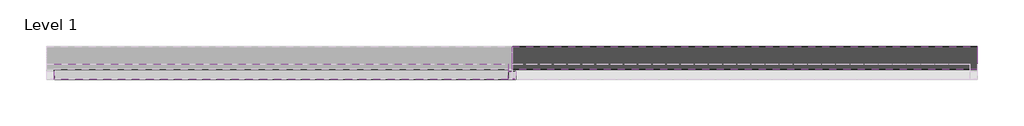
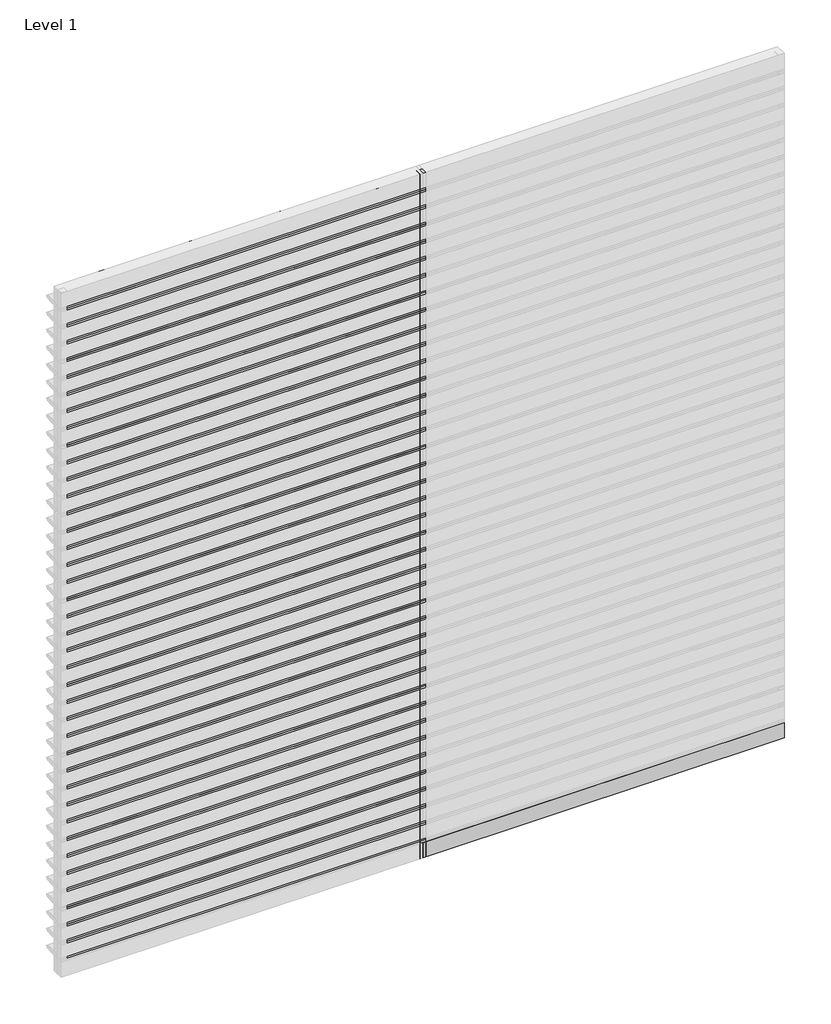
# One storey, part 2 of 3: 79 members, 40 plates.
"""IFC4 building model written with IfcOpenShell, lengths in millimetres."""

from ifc_helpers import new_model, si_unit, origin, place, context, project, spatial, transform, mapped, element, save
from components import rectangular_mullion_822d50ae, rectangular_mullion_eb4a5411, empty_system_panel_empty_095e2861, empty_system_panel_empty_149e9d60

model = new_model("IFC4")

# Units and contexts
model_context = context("Model", 3, world=origin())
ifc_project = project(units=[si_unit("LENGTHUNIT", "METRE", prefix="MILLI")], contexts=[model_context])

# Site, building, storey
site = spatial("IfcSite", under=ifc_project)
building = spatial("IfcBuilding", under=site)
storey = spatial("IfcBuildingStorey", under=building, Name="Level 1", Elevation=0.0)

# Members
placement = place(None, origin())
rectangular_mullion_shape = rectangular_mullion_822d50ae(model_context)
element("IfcMember", 1, ObjectType="Rectangular Mullion : RSen_21_CWM_blade - 150 ellips - 0°_gen_duco projects", at=placement, inside=storey, context=model_context, shape_type="MappedRepresentation", body=[
    mapped(rectangular_mullion_shape, transform((3000.0, 3000.0, 150.0), x_axis=(0.0, 0.0, 1.0), y_axis=(0.0, 1.0, 0.0), z_axis=(-1.0, 0.0, 0.0))),
])
element("IfcMember", 2, ObjectType="Rectangular Mullion : RSen_21_CWM_blade - 150 ellips - 0°_gen_duco projects", at=placement, inside=storey, context=model_context, shape_type="MappedRepresentation", body=[
    mapped(rectangular_mullion_shape, transform((3000.0, 3000.0, 300.0), x_axis=(0.0, 0.0, 1.0), y_axis=(0.0, 1.0, 0.0), z_axis=(-1.0, 0.0, 0.0))),
])
element("IfcMember", 3, ObjectType="Rectangular Mullion : RSen_21_CWM_blade - 150 ellips - 0°_gen_duco projects", at=placement, inside=storey, context=model_context, shape_type="MappedRepresentation", body=[
    mapped(rectangular_mullion_shape, transform((3000.0, 3000.0, 450.0), x_axis=(0.0, 0.0, 1.0), y_axis=(0.0, 1.0, 0.0), z_axis=(-1.0, 0.0, 0.0))),
])
element("IfcMember", 4, ObjectType="Rectangular Mullion : RSen_21_CWM_blade - 150 ellips - 0°_gen_duco projects", at=placement, inside=storey, context=model_context, shape_type="MappedRepresentation", body=[
    mapped(rectangular_mullion_shape, transform((3000.0, 3000.0, 600.0), x_axis=(0.0, 0.0, 1.0), y_axis=(0.0, 1.0, 0.0), z_axis=(-1.0, 0.0, 0.0))),
])
element("IfcMember", 5, ObjectType="Rectangular Mullion : RSen_21_CWM_blade - 150 ellips - 0°_gen_duco projects", at=placement, inside=storey, context=model_context, shape_type="MappedRepresentation", body=[
    mapped(rectangular_mullion_shape, transform((3000.0, 3000.0, 750.0), x_axis=(0.0, 0.0, 1.0), y_axis=(0.0, 1.0, 0.0), z_axis=(-1.0, 0.0, 0.0))),
])
element("IfcMember", 6, ObjectType="Rectangular Mullion : RSen_21_CWM_blade - 150 ellips - 0°_gen_duco projects", at=placement, inside=storey, context=model_context, shape_type="MappedRepresentation", body=[
    mapped(rectangular_mullion_shape, transform((3000.0, 3000.0, 900.0), x_axis=(0.0, 0.0, 1.0), y_axis=(0.0, 1.0, 0.0), z_axis=(-1.0, 0.0, 0.0))),
])
element("IfcMember", 7, ObjectType="Rectangular Mullion : RSen_21_CWM_blade - 150 ellips - 0°_gen_duco projects", at=placement, inside=storey, context=model_context, shape_type="MappedRepresentation", body=[
    mapped(rectangular_mullion_shape, transform((3000.0, 3000.0, 1050.0), x_axis=(0.0, 0.0, 1.0), y_axis=(0.0, 1.0, 0.0), z_axis=(-1.0, 0.0, 0.0))),
])
element("IfcMember", 8, ObjectType="Rectangular Mullion : RSen_21_CWM_blade - 150 ellips - 0°_gen_duco projects", at=placement, inside=storey, context=model_context, shape_type="MappedRepresentation", body=[
    mapped(rectangular_mullion_shape, transform((3000.0, 3000.0, 1200.0), x_axis=(0.0, 0.0, 1.0), y_axis=(0.0, 1.0, 0.0), z_axis=(-1.0, 0.0, 0.0))),
])
element("IfcMember", 9, ObjectType="Rectangular Mullion : RSen_21_CWM_blade - 150 ellips - 0°_gen_duco projects", at=placement, inside=storey, context=model_context, shape_type="MappedRepresentation", body=[
    mapped(rectangular_mullion_shape, transform((3000.0, 3000.0, 1350.0), x_axis=(0.0, 0.0, 1.0), y_axis=(0.0, 1.0, 0.0), z_axis=(-1.0, 0.0, 0.0))),
])
element("IfcMember", 10, ObjectType="Rectangular Mullion : RSen_21_CWM_blade - 150 ellips - 0°_gen_duco projects", at=placement, inside=storey, context=model_context, shape_type="MappedRepresentation", body=[
    mapped(rectangular_mullion_shape, transform((3000.0, 3000.0, 1500.0), x_axis=(0.0, 0.0, 1.0), y_axis=(0.0, 1.0, 0.0), z_axis=(-1.0, 0.0, 0.0))),
])
element("IfcMember", 11, ObjectType="Rectangular Mullion : RSen_21_CWM_blade - 150 ellips - 0°_gen_duco projects", at=placement, inside=storey, context=model_context, shape_type="MappedRepresentation", body=[
    mapped(rectangular_mullion_shape, transform((3000.0, 3000.0, 1650.0), x_axis=(0.0, 0.0, 1.0), y_axis=(0.0, 1.0, 0.0), z_axis=(-1.0, 0.0, 0.0))),
])
element("IfcMember", 12, ObjectType="Rectangular Mullion : RSen_21_CWM_blade - 150 ellips - 0°_gen_duco projects", at=placement, inside=storey, context=model_context, shape_type="MappedRepresentation", body=[
    mapped(rectangular_mullion_shape, transform((3000.0, 3000.0, 1800.0), x_axis=(0.0, 0.0, 1.0), y_axis=(0.0, 1.0, 0.0), z_axis=(-1.0, 0.0, 0.0))),
])
element("IfcMember", 13, ObjectType="Rectangular Mullion : RSen_21_CWM_blade - 150 ellips - 0°_gen_duco projects", at=placement, inside=storey, context=model_context, shape_type="MappedRepresentation", body=[
    mapped(rectangular_mullion_shape, transform((3000.0, 3000.0, 1950.0), x_axis=(0.0, 0.0, 1.0), y_axis=(0.0, 1.0, 0.0), z_axis=(-1.0, 0.0, 0.0))),
])
element("IfcMember", 14, ObjectType="Rectangular Mullion : RSen_21_CWM_blade - 150 ellips - 0°_gen_duco projects", at=placement, inside=storey, context=model_context, shape_type="MappedRepresentation", body=[
    mapped(rectangular_mullion_shape, transform((3000.0, 3000.0, 2100.0), x_axis=(0.0, 0.0, 1.0), y_axis=(0.0, 1.0, 0.0), z_axis=(-1.0, 0.0, 0.0))),
])
element("IfcMember", 15, ObjectType="Rectangular Mullion : RSen_21_CWM_blade - 150 ellips - 0°_gen_duco projects", at=placement, inside=storey, context=model_context, shape_type="MappedRepresentation", body=[
    mapped(rectangular_mullion_shape, transform((3000.0, 3000.0, 2250.0), x_axis=(0.0, 0.0, 1.0), y_axis=(0.0, 1.0, 0.0), z_axis=(-1.0, 0.0, 0.0))),
])
element("IfcMember", 16, ObjectType="Rectangular Mullion : RSen_21_CWM_blade - 150 ellips - 0°_gen_duco projects", at=placement, inside=storey, context=model_context, shape_type="MappedRepresentation", body=[
    mapped(rectangular_mullion_shape, transform((3000.0, 3000.0, 2400.0), x_axis=(0.0, 0.0, 1.0), y_axis=(0.0, 1.0, 0.0), z_axis=(-1.0, 0.0, 0.0))),
])
element("IfcMember", 17, ObjectType="Rectangular Mullion : RSen_21_CWM_blade - 150 ellips - 0°_gen_duco projects", at=placement, inside=storey, context=model_context, shape_type="MappedRepresentation", body=[
    mapped(rectangular_mullion_shape, transform((3000.0, 3000.0, 2550.0), x_axis=(0.0, 0.0, 1.0), y_axis=(0.0, 1.0, 0.0), z_axis=(-1.0, 0.0, 0.0))),
])
element("IfcMember", 18, ObjectType="Rectangular Mullion : RSen_21_CWM_blade - 150 ellips - 0°_gen_duco projects", at=placement, inside=storey, context=model_context, shape_type="MappedRepresentation", body=[
    mapped(rectangular_mullion_shape, transform((3000.0, 3000.0, 2700.0), x_axis=(0.0, 0.0, 1.0), y_axis=(0.0, 1.0, 0.0), z_axis=(-1.0, 0.0, 0.0))),
])
element("IfcMember", 19, ObjectType="Rectangular Mullion : RSen_21_CWM_blade - 150 ellips - 0°_gen_duco projects", at=placement, inside=storey, context=model_context, shape_type="MappedRepresentation", body=[
    mapped(rectangular_mullion_shape, transform((3000.0, 3000.0, 2850.0), x_axis=(0.0, 0.0, 1.0), y_axis=(0.0, 1.0, 0.0), z_axis=(-1.0, 0.0, 0.0))),
])
element("IfcMember", 20, ObjectType="Rectangular Mullion : RSen_21_CWM_blade - 150 ellips - 0°_gen_duco projects", at=placement, inside=storey, context=model_context, shape_type="MappedRepresentation", body=[
    mapped(rectangular_mullion_shape, transform((3000.0, 3000.0, 3000.0), x_axis=(0.0, 0.0, 1.0), y_axis=(0.0, 1.0, 0.0), z_axis=(-1.0, 0.0, 0.0))),
])
element("IfcMember", 21, ObjectType="Rectangular Mullion : RSen_21_CWM_blade - 150 ellips - 0°_gen_duco projects", at=placement, inside=storey, context=model_context, shape_type="MappedRepresentation", body=[
    mapped(rectangular_mullion_shape, transform((3000.0, 3000.0, 3150.0), x_axis=(0.0, 0.0, 1.0), y_axis=(0.0, 1.0, 0.0), z_axis=(-1.0, 0.0, 0.0))),
])
element("IfcMember", 22, ObjectType="Rectangular Mullion : RSen_21_CWM_blade - 150 ellips - 0°_gen_duco projects", at=placement, inside=storey, context=model_context, shape_type="MappedRepresentation", body=[
    mapped(rectangular_mullion_shape, transform((3000.0, 3000.0, 3300.0), x_axis=(0.0, 0.0, 1.0), y_axis=(0.0, 1.0, 0.0), z_axis=(-1.0, 0.0, 0.0))),
])
element("IfcMember", 23, ObjectType="Rectangular Mullion : RSen_21_CWM_blade - 150 ellips - 0°_gen_duco projects", at=placement, inside=storey, context=model_context, shape_type="MappedRepresentation", body=[
    mapped(rectangular_mullion_shape, transform((3000.0, 3000.0, 3450.0), x_axis=(0.0, 0.0, 1.0), y_axis=(0.0, 1.0, 0.0), z_axis=(-1.0, 0.0, 0.0))),
])
element("IfcMember", 24, ObjectType="Rectangular Mullion : RSen_21_CWM_blade - 150 ellips - 0°_gen_duco projects", at=placement, inside=storey, context=model_context, shape_type="MappedRepresentation", body=[
    mapped(rectangular_mullion_shape, transform((3000.0, 3000.0, 3600.0), x_axis=(0.0, 0.0, 1.0), y_axis=(0.0, 1.0, 0.0), z_axis=(-1.0, 0.0, 0.0))),
])
element("IfcMember", 25, ObjectType="Rectangular Mullion : RSen_21_CWM_blade - 150 ellips - 0°_gen_duco projects", at=placement, inside=storey, context=model_context, shape_type="MappedRepresentation", body=[
    mapped(rectangular_mullion_shape, transform((3000.0, 3000.0, 3750.0), x_axis=(0.0, 0.0, 1.0), y_axis=(0.0, 1.0, 0.0), z_axis=(-1.0, 0.0, 0.0))),
])
element("IfcMember", 26, ObjectType="Rectangular Mullion : RSen_21_CWM_blade - 150 ellips - 0°_gen_duco projects", at=placement, inside=storey, context=model_context, shape_type="MappedRepresentation", body=[
    mapped(rectangular_mullion_shape, transform((3000.0, 3000.0, 3900.0), x_axis=(0.0, 0.0, 1.0), y_axis=(0.0, 1.0, 0.0), z_axis=(-1.0, 0.0, 0.0))),
])
element("IfcMember", 27, ObjectType="Rectangular Mullion : RSen_21_CWM_blade - 150 ellips - 0°_gen_duco projects", at=placement, inside=storey, context=model_context, shape_type="MappedRepresentation", body=[
    mapped(rectangular_mullion_shape, transform((3000.0, 3000.0, 4050.0), x_axis=(0.0, 0.0, 1.0), y_axis=(0.0, 1.0, 0.0), z_axis=(-1.0, 0.0, 0.0))),
])
element("IfcMember", 28, ObjectType="Rectangular Mullion : RSen_21_CWM_blade - 150 ellips - 0°_gen_duco projects", at=placement, inside=storey, context=model_context, shape_type="MappedRepresentation", body=[
    mapped(rectangular_mullion_shape, transform((3000.0, 3000.0, 4200.0), x_axis=(0.0, 0.0, 1.0), y_axis=(0.0, 1.0, 0.0), z_axis=(-1.0, 0.0, 0.0))),
])
element("IfcMember", 29, ObjectType="Rectangular Mullion : RSen_21_CWM_blade - 150 ellips - 0°_gen_duco projects", at=placement, inside=storey, context=model_context, shape_type="MappedRepresentation", body=[
    mapped(rectangular_mullion_shape, transform((3000.0, 3000.0, 4350.0), x_axis=(0.0, 0.0, 1.0), y_axis=(0.0, 1.0, 0.0), z_axis=(-1.0, 0.0, 0.0))),
])
element("IfcMember", 30, ObjectType="Rectangular Mullion : RSen_21_CWM_blade - 150 ellips - 0°_gen_duco projects", at=placement, inside=storey, context=model_context, shape_type="MappedRepresentation", body=[
    mapped(rectangular_mullion_shape, transform((3000.0, 3000.0, 4500.0), x_axis=(0.0, 0.0, 1.0), y_axis=(0.0, 1.0, 0.0), z_axis=(-1.0, 0.0, 0.0))),
])
element("IfcMember", 31, ObjectType="Rectangular Mullion : RSen_21_CWM_blade - 150 ellips - 0°_gen_duco projects", at=placement, inside=storey, context=model_context, shape_type="MappedRepresentation", body=[
    mapped(rectangular_mullion_shape, transform((3000.0, 3000.0, 4650.0), x_axis=(0.0, 0.0, 1.0), y_axis=(0.0, 1.0, 0.0), z_axis=(-1.0, 0.0, 0.0))),
])
element("IfcMember", 32, ObjectType="Rectangular Mullion : RSen_21_CWM_blade - 150 ellips - 0°_gen_duco projects", at=placement, inside=storey, context=model_context, shape_type="MappedRepresentation", body=[
    mapped(rectangular_mullion_shape, transform((3000.0, 3000.0, 4800.0), x_axis=(0.0, 0.0, 1.0), y_axis=(0.0, 1.0, 0.0), z_axis=(-1.0, 0.0, 0.0))),
])
element("IfcMember", 33, ObjectType="Rectangular Mullion : RSen_21_CWM_blade - 150 ellips - 0°_gen_duco projects", at=placement, inside=storey, context=model_context, shape_type="MappedRepresentation", body=[
    mapped(rectangular_mullion_shape, transform((3000.0, 3000.0, 4950.0), x_axis=(0.0, 0.0, 1.0), y_axis=(0.0, 1.0, 0.0), z_axis=(-1.0, 0.0, 0.0))),
])
element("IfcMember", 34, ObjectType="Rectangular Mullion : RSen_21_CWM_blade - 150 ellips - 0°_gen_duco projects", at=placement, inside=storey, context=model_context, shape_type="MappedRepresentation", body=[
    mapped(rectangular_mullion_shape, transform((3000.0, 3000.0, 5100.0), x_axis=(0.0, 0.0, 1.0), y_axis=(0.0, 1.0, 0.0), z_axis=(-1.0, 0.0, 0.0))),
])
element("IfcMember", 35, ObjectType="Rectangular Mullion : RSen_21_CWM_blade - 150 ellips - 0°_gen_duco projects", at=placement, inside=storey, context=model_context, shape_type="MappedRepresentation", body=[
    mapped(rectangular_mullion_shape, transform((3000.0, 3000.0, 5250.0), x_axis=(0.0, 0.0, 1.0), y_axis=(0.0, 1.0, 0.0), z_axis=(-1.0, 0.0, 0.0))),
])
element("IfcMember", 36, ObjectType="Rectangular Mullion : RSen_21_CWM_blade - 150 ellips - 0°_gen_duco projects", at=placement, inside=storey, context=model_context, shape_type="MappedRepresentation", body=[
    mapped(rectangular_mullion_shape, transform((3000.0, 3000.0, 5400.0), x_axis=(0.0, 0.0, 1.0), y_axis=(0.0, 1.0, 0.0), z_axis=(-1.0, 0.0, 0.0))),
])
element("IfcMember", 37, ObjectType="Rectangular Mullion : RSen_21_CWM_blade - 150 ellips - 0°_gen_duco projects", at=placement, inside=storey, context=model_context, shape_type="MappedRepresentation", body=[
    mapped(rectangular_mullion_shape, transform((3000.0, 3000.0, 5550.0), x_axis=(0.0, 0.0, 1.0), y_axis=(0.0, 1.0, 0.0), z_axis=(-1.0, 0.0, 0.0))),
])
element("IfcMember", 38, ObjectType="Rectangular Mullion : RSen_21_CWM_blade - 150 ellips - 0°_gen_duco projects", at=placement, inside=storey, context=model_context, shape_type="MappedRepresentation", body=[
    mapped(rectangular_mullion_shape, transform((3000.0, 3000.0, 5700.0), x_axis=(0.0, 0.0, 1.0), y_axis=(0.0, 1.0, 0.0), z_axis=(-1.0, 0.0, 0.0))),
])
element("IfcMember", 39, ObjectType="Rectangular Mullion : RSen_21_CWM_blade - 150 ellips - 0°_gen_duco projects", at=placement, inside=storey, context=model_context, shape_type="MappedRepresentation", body=[
    mapped(rectangular_mullion_shape, transform((3000.0, 3000.0, 5850.0), x_axis=(0.0, 0.0, 1.0), y_axis=(0.0, 1.0, 0.0), z_axis=(-1.0, 0.0, 0.0))),
])
rectangular_mullion_2_shape = rectangular_mullion_eb4a5411(model_context)
element("IfcMember", 40, ObjectType="Rectangular Mullion : RSen_21_CWM_support profile 50x50_gen_duco projects", at=placement, inside=storey, context=model_context, shape_type="MappedRepresentation", body=[
    mapped(rectangular_mullion_2_shape, transform((3000.0, 3000.0, 0.0), x_axis=(-1.0, 0.0, 0.0), y_axis=(0.0, 1.0, 0.0), z_axis=(0.0, 0.0, -1.0))),
])
element("IfcMember", 41, ObjectType="Rectangular Mullion : RSen_21_CWM_support profile 50x50_gen_duco projects", at=placement, inside=storey, context=model_context, shape_type="MappedRepresentation", body=[
    mapped(rectangular_mullion_2_shape, transform((3000.0, 3000.0, 150.0), x_axis=(-1.0, 0.0, 0.0), y_axis=(0.0, 1.0, 0.0), z_axis=(0.0, 0.0, -1.0))),
])
element("IfcMember", 42, ObjectType="Rectangular Mullion : RSen_21_CWM_support profile 50x50_gen_duco projects", at=placement, inside=storey, context=model_context, shape_type="MappedRepresentation", body=[
    mapped(rectangular_mullion_2_shape, transform((3000.0, 3000.0, 300.0), x_axis=(-1.0, 0.0, 0.0), y_axis=(0.0, 1.0, 0.0), z_axis=(0.0, 0.0, -1.0))),
])
element("IfcMember", 43, ObjectType="Rectangular Mullion : RSen_21_CWM_support profile 50x50_gen_duco projects", at=placement, inside=storey, context=model_context, shape_type="MappedRepresentation", body=[
    mapped(rectangular_mullion_2_shape, transform((3000.0, 3000.0, 450.0), x_axis=(-1.0, 0.0, 0.0), y_axis=(0.0, 1.0, 0.0), z_axis=(0.0, 0.0, -1.0))),
])
element("IfcMember", 44, ObjectType="Rectangular Mullion : RSen_21_CWM_support profile 50x50_gen_duco projects", at=placement, inside=storey, context=model_context, shape_type="MappedRepresentation", body=[
    mapped(rectangular_mullion_2_shape, transform((3000.0, 3000.0, 600.0), x_axis=(-1.0, 0.0, 0.0), y_axis=(0.0, 1.0, 0.0), z_axis=(0.0, 0.0, -1.0))),
])
element("IfcMember", 45, ObjectType="Rectangular Mullion : RSen_21_CWM_support profile 50x50_gen_duco projects", at=placement, inside=storey, context=model_context, shape_type="MappedRepresentation", body=[
    mapped(rectangular_mullion_2_shape, transform((3000.0, 3000.0, 750.0), x_axis=(-1.0, 0.0, 0.0), y_axis=(0.0, 1.0, 0.0), z_axis=(0.0, 0.0, -1.0))),
])
element("IfcMember", 46, ObjectType="Rectangular Mullion : RSen_21_CWM_support profile 50x50_gen_duco projects", at=placement, inside=storey, context=model_context, shape_type="MappedRepresentation", body=[
    mapped(rectangular_mullion_2_shape, transform((3000.0, 3000.0, 900.0), x_axis=(-1.0, 0.0, 0.0), y_axis=(0.0, 1.0, 0.0), z_axis=(0.0, 0.0, -1.0))),
])
element("IfcMember", 47, ObjectType="Rectangular Mullion : RSen_21_CWM_support profile 50x50_gen_duco projects", at=placement, inside=storey, context=model_context, shape_type="MappedRepresentation", body=[
    mapped(rectangular_mullion_2_shape, transform((3000.0, 3000.0, 1050.0), x_axis=(-1.0, 0.0, 0.0), y_axis=(0.0, 1.0, 0.0), z_axis=(0.0, 0.0, -1.0))),
])
element("IfcMember", 48, ObjectType="Rectangular Mullion : RSen_21_CWM_support profile 50x50_gen_duco projects", at=placement, inside=storey, context=model_context, shape_type="MappedRepresentation", body=[
    mapped(rectangular_mullion_2_shape, transform((3000.0, 3000.0, 1200.0), x_axis=(-1.0, 0.0, 0.0), y_axis=(0.0, 1.0, 0.0), z_axis=(0.0, 0.0, -1.0))),
])
element("IfcMember", 49, ObjectType="Rectangular Mullion : RSen_21_CWM_support profile 50x50_gen_duco projects", at=placement, inside=storey, context=model_context, shape_type="MappedRepresentation", body=[
    mapped(rectangular_mullion_2_shape, transform((3000.0, 3000.0, 1350.0), x_axis=(-1.0, 0.0, 0.0), y_axis=(0.0, 1.0, 0.0), z_axis=(0.0, 0.0, -1.0))),
])
element("IfcMember", 50, ObjectType="Rectangular Mullion : RSen_21_CWM_support profile 50x50_gen_duco projects", at=placement, inside=storey, context=model_context, shape_type="MappedRepresentation", body=[
    mapped(rectangular_mullion_2_shape, transform((3000.0, 3000.0, 1500.0), x_axis=(-1.0, 0.0, 0.0), y_axis=(0.0, 1.0, 0.0), z_axis=(0.0, 0.0, -1.0))),
])
element("IfcMember", 51, ObjectType="Rectangular Mullion : RSen_21_CWM_support profile 50x50_gen_duco projects", at=placement, inside=storey, context=model_context, shape_type="MappedRepresentation", body=[
    mapped(rectangular_mullion_2_shape, transform((3000.0, 3000.0, 1650.0), x_axis=(-1.0, 0.0, 0.0), y_axis=(0.0, 1.0, 0.0), z_axis=(0.0, 0.0, -1.0))),
])
element("IfcMember", 52, ObjectType="Rectangular Mullion : RSen_21_CWM_support profile 50x50_gen_duco projects", at=placement, inside=storey, context=model_context, shape_type="MappedRepresentation", body=[
    mapped(rectangular_mullion_2_shape, transform((3000.0, 3000.0, 1800.0), x_axis=(-1.0, 0.0, 0.0), y_axis=(0.0, 1.0, 0.0), z_axis=(0.0, 0.0, -1.0))),
])
element("IfcMember", 53, ObjectType="Rectangular Mullion : RSen_21_CWM_support profile 50x50_gen_duco projects", at=placement, inside=storey, context=model_context, shape_type="MappedRepresentation", body=[
    mapped(rectangular_mullion_2_shape, transform((3000.0, 3000.0, 1950.0), x_axis=(-1.0, 0.0, 0.0), y_axis=(0.0, 1.0, 0.0), z_axis=(0.0, 0.0, -1.0))),
])
element("IfcMember", 54, ObjectType="Rectangular Mullion : RSen_21_CWM_support profile 50x50_gen_duco projects", at=placement, inside=storey, context=model_context, shape_type="MappedRepresentation", body=[
    mapped(rectangular_mullion_2_shape, transform((3000.0, 3000.0, 2100.0), x_axis=(-1.0, 0.0, 0.0), y_axis=(0.0, 1.0, 0.0), z_axis=(0.0, 0.0, -1.0))),
])
element("IfcMember", 55, ObjectType="Rectangular Mullion : RSen_21_CWM_support profile 50x50_gen_duco projects", at=placement, inside=storey, context=model_context, shape_type="MappedRepresentation", body=[
    mapped(rectangular_mullion_2_shape, transform((3000.0, 3000.0, 2250.0), x_axis=(-1.0, 0.0, 0.0), y_axis=(0.0, 1.0, 0.0), z_axis=(0.0, 0.0, -1.0))),
])
element("IfcMember", 56, ObjectType="Rectangular Mullion : RSen_21_CWM_support profile 50x50_gen_duco projects", at=placement, inside=storey, context=model_context, shape_type="MappedRepresentation", body=[
    mapped(rectangular_mullion_2_shape, transform((3000.0, 3000.0, 2400.0), x_axis=(-1.0, 0.0, 0.0), y_axis=(0.0, 1.0, 0.0), z_axis=(0.0, 0.0, -1.0))),
])
element("IfcMember", 57, ObjectType="Rectangular Mullion : RSen_21_CWM_support profile 50x50_gen_duco projects", at=placement, inside=storey, context=model_context, shape_type="MappedRepresentation", body=[
    mapped(rectangular_mullion_2_shape, transform((3000.0, 3000.0, 2550.0), x_axis=(-1.0, 0.0, 0.0), y_axis=(0.0, 1.0, 0.0), z_axis=(0.0, 0.0, -1.0))),
])
element("IfcMember", 58, ObjectType="Rectangular Mullion : RSen_21_CWM_support profile 50x50_gen_duco projects", at=placement, inside=storey, context=model_context, shape_type="MappedRepresentation", body=[
    mapped(rectangular_mullion_2_shape, transform((3000.0, 3000.0, 2700.0), x_axis=(-1.0, 0.0, 0.0), y_axis=(0.0, 1.0, 0.0), z_axis=(0.0, 0.0, -1.0))),
])
element("IfcMember", 59, ObjectType="Rectangular Mullion : RSen_21_CWM_support profile 50x50_gen_duco projects", at=placement, inside=storey, context=model_context, shape_type="MappedRepresentation", body=[
    mapped(rectangular_mullion_2_shape, transform((3000.0, 3000.0, 2850.0), x_axis=(-1.0, 0.0, 0.0), y_axis=(0.0, 1.0, 0.0), z_axis=(0.0, 0.0, -1.0))),
])
element("IfcMember", 60, ObjectType="Rectangular Mullion : RSen_21_CWM_support profile 50x50_gen_duco projects", at=placement, inside=storey, context=model_context, shape_type="MappedRepresentation", body=[
    mapped(rectangular_mullion_2_shape, transform((3000.0, 3000.0, 3000.0), x_axis=(-1.0, 0.0, 0.0), y_axis=(0.0, 1.0, 0.0), z_axis=(0.0, 0.0, -1.0))),
])
element("IfcMember", 61, ObjectType="Rectangular Mullion : RSen_21_CWM_support profile 50x50_gen_duco projects", at=placement, inside=storey, context=model_context, shape_type="MappedRepresentation", body=[
    mapped(rectangular_mullion_2_shape, transform((3000.0, 3000.0, 3150.0), x_axis=(-1.0, 0.0, 0.0), y_axis=(0.0, 1.0, 0.0), z_axis=(0.0, 0.0, -1.0))),
])
element("IfcMember", 62, ObjectType="Rectangular Mullion : RSen_21_CWM_support profile 50x50_gen_duco projects", at=placement, inside=storey, context=model_context, shape_type="MappedRepresentation", body=[
    mapped(rectangular_mullion_2_shape, transform((3000.0, 3000.0, 3300.0), x_axis=(-1.0, 0.0, 0.0), y_axis=(0.0, 1.0, 0.0), z_axis=(0.0, 0.0, -1.0))),
])
element("IfcMember", 63, ObjectType="Rectangular Mullion : RSen_21_CWM_support profile 50x50_gen_duco projects", at=placement, inside=storey, context=model_context, shape_type="MappedRepresentation", body=[
    mapped(rectangular_mullion_2_shape, transform((3000.0, 3000.0, 3450.0), x_axis=(-1.0, 0.0, 0.0), y_axis=(0.0, 1.0, 0.0), z_axis=(0.0, 0.0, -1.0))),
])
element("IfcMember", 64, ObjectType="Rectangular Mullion : RSen_21_CWM_support profile 50x50_gen_duco projects", at=placement, inside=storey, context=model_context, shape_type="MappedRepresentation", body=[
    mapped(rectangular_mullion_2_shape, transform((3000.0, 3000.0, 3600.0), x_axis=(-1.0, 0.0, 0.0), y_axis=(0.0, 1.0, 0.0), z_axis=(0.0, 0.0, -1.0))),
])
element("IfcMember", 65, ObjectType="Rectangular Mullion : RSen_21_CWM_support profile 50x50_gen_duco projects", at=placement, inside=storey, context=model_context, shape_type="MappedRepresentation", body=[
    mapped(rectangular_mullion_2_shape, transform((3000.0, 3000.0, 3750.0), x_axis=(-1.0, 0.0, 0.0), y_axis=(0.0, 1.0, 0.0), z_axis=(0.0, 0.0, -1.0))),
])
element("IfcMember", 66, ObjectType="Rectangular Mullion : RSen_21_CWM_support profile 50x50_gen_duco projects", at=placement, inside=storey, context=model_context, shape_type="MappedRepresentation", body=[
    mapped(rectangular_mullion_2_shape, transform((3000.0, 3000.0, 3900.0), x_axis=(-1.0, 0.0, 0.0), y_axis=(0.0, 1.0, 0.0), z_axis=(0.0, 0.0, -1.0))),
])
element("IfcMember", 67, ObjectType="Rectangular Mullion : RSen_21_CWM_support profile 50x50_gen_duco projects", at=placement, inside=storey, context=model_context, shape_type="MappedRepresentation", body=[
    mapped(rectangular_mullion_2_shape, transform((3000.0, 3000.0, 4050.0), x_axis=(-1.0, 0.0, 0.0), y_axis=(0.0, 1.0, 0.0), z_axis=(0.0, 0.0, -1.0))),
])
element("IfcMember", 68, ObjectType="Rectangular Mullion : RSen_21_CWM_support profile 50x50_gen_duco projects", at=placement, inside=storey, context=model_context, shape_type="MappedRepresentation", body=[
    mapped(rectangular_mullion_2_shape, transform((3000.0, 3000.0, 4200.0), x_axis=(-1.0, 0.0, 0.0), y_axis=(0.0, 1.0, 0.0), z_axis=(0.0, 0.0, -1.0))),
])
element("IfcMember", 69, ObjectType="Rectangular Mullion : RSen_21_CWM_support profile 50x50_gen_duco projects", at=placement, inside=storey, context=model_context, shape_type="MappedRepresentation", body=[
    mapped(rectangular_mullion_2_shape, transform((3000.0, 3000.0, 4350.0), x_axis=(-1.0, 0.0, 0.0), y_axis=(0.0, 1.0, 0.0), z_axis=(0.0, 0.0, -1.0))),
])
element("IfcMember", 70, ObjectType="Rectangular Mullion : RSen_21_CWM_support profile 50x50_gen_duco projects", at=placement, inside=storey, context=model_context, shape_type="MappedRepresentation", body=[
    mapped(rectangular_mullion_2_shape, transform((3000.0, 3000.0, 4500.0), x_axis=(-1.0, 0.0, 0.0), y_axis=(0.0, 1.0, 0.0), z_axis=(0.0, 0.0, -1.0))),
])
element("IfcMember", 71, ObjectType="Rectangular Mullion : RSen_21_CWM_support profile 50x50_gen_duco projects", at=placement, inside=storey, context=model_context, shape_type="MappedRepresentation", body=[
    mapped(rectangular_mullion_2_shape, transform((3000.0, 3000.0, 4650.0), x_axis=(-1.0, 0.0, 0.0), y_axis=(0.0, 1.0, 0.0), z_axis=(0.0, 0.0, -1.0))),
])
element("IfcMember", 72, ObjectType="Rectangular Mullion : RSen_21_CWM_support profile 50x50_gen_duco projects", at=placement, inside=storey, context=model_context, shape_type="MappedRepresentation", body=[
    mapped(rectangular_mullion_2_shape, transform((3000.0, 3000.0, 4800.0), x_axis=(-1.0, 0.0, 0.0), y_axis=(0.0, 1.0, 0.0), z_axis=(0.0, 0.0, -1.0))),
])
element("IfcMember", 73, ObjectType="Rectangular Mullion : RSen_21_CWM_support profile 50x50_gen_duco projects", at=placement, inside=storey, context=model_context, shape_type="MappedRepresentation", body=[
    mapped(rectangular_mullion_2_shape, transform((3000.0, 3000.0, 4950.0), x_axis=(-1.0, 0.0, 0.0), y_axis=(0.0, 1.0, 0.0), z_axis=(0.0, 0.0, -1.0))),
])
element("IfcMember", 74, ObjectType="Rectangular Mullion : RSen_21_CWM_support profile 50x50_gen_duco projects", at=placement, inside=storey, context=model_context, shape_type="MappedRepresentation", body=[
    mapped(rectangular_mullion_2_shape, transform((3000.0, 3000.0, 5100.0), x_axis=(-1.0, 0.0, 0.0), y_axis=(0.0, 1.0, 0.0), z_axis=(0.0, 0.0, -1.0))),
])
element("IfcMember", 75, ObjectType="Rectangular Mullion : RSen_21_CWM_support profile 50x50_gen_duco projects", at=placement, inside=storey, context=model_context, shape_type="MappedRepresentation", body=[
    mapped(rectangular_mullion_2_shape, transform((3000.0, 3000.0, 5250.0), x_axis=(-1.0, 0.0, 0.0), y_axis=(0.0, 1.0, 0.0), z_axis=(0.0, 0.0, -1.0))),
])
element("IfcMember", 76, ObjectType="Rectangular Mullion : RSen_21_CWM_support profile 50x50_gen_duco projects", at=placement, inside=storey, context=model_context, shape_type="MappedRepresentation", body=[
    mapped(rectangular_mullion_2_shape, transform((3000.0, 3000.0, 5400.0), x_axis=(-1.0, 0.0, 0.0), y_axis=(0.0, 1.0, 0.0), z_axis=(0.0, 0.0, -1.0))),
])
element("IfcMember", 77, ObjectType="Rectangular Mullion : RSen_21_CWM_support profile 50x50_gen_duco projects", at=placement, inside=storey, context=model_context, shape_type="MappedRepresentation", body=[
    mapped(rectangular_mullion_2_shape, transform((3000.0, 3000.0, 5550.0), x_axis=(-1.0, 0.0, 0.0), y_axis=(0.0, 1.0, 0.0), z_axis=(0.0, 0.0, -1.0))),
])
element("IfcMember", 78, ObjectType="Rectangular Mullion : RSen_21_CWM_support profile 50x50_gen_duco projects", at=placement, inside=storey, context=model_context, shape_type="MappedRepresentation", body=[
    mapped(rectangular_mullion_2_shape, transform((3000.0, 3000.0, 5700.0), x_axis=(-1.0, 0.0, 0.0), y_axis=(0.0, 1.0, 0.0), z_axis=(0.0, 0.0, -1.0))),
])
element("IfcMember", 79, ObjectType="Rectangular Mullion : RSen_21_CWM_support profile 50x50_gen_duco projects", at=placement, inside=storey, context=model_context, shape_type="MappedRepresentation", body=[
    mapped(rectangular_mullion_2_shape, transform((3000.0, 3000.0, 5850.0), x_axis=(-1.0, 0.0, 0.0), y_axis=(0.0, 1.0, 0.0), z_axis=(0.0, 0.0, -1.0))),
])

# Plates
empty_system_panel_empty_shape = empty_system_panel_empty_095e2861(model_context)
element("IfcPlate", 80, ObjectType="Empty System Panel : Empty", at=placement, inside=storey, context=model_context, shape_type="MappedRepresentation", body=[
    mapped(empty_system_panel_empty_shape, transform((4500.0, 3000.0, 0.0), x_axis=(-1.0, 0.0, 0.0), y_axis=(0.0, -1.0, 0.0), z_axis=(0.0, 0.0, 1.0))),
])
empty_system_panel_empty_2_shape = empty_system_panel_empty_149e9d60(model_context)
element("IfcPlate", 81, ObjectType="Empty System Panel : Empty", at=placement, inside=storey, context=model_context, shape_type="MappedRepresentation", body=[
    mapped(empty_system_panel_empty_2_shape, transform((1512.5, 3000.0, 150.0), x_axis=(-1.0, 0.0, 0.0), y_axis=(0.0, -1.0, 0.0), z_axis=(0.0, 0.0, 1.0))),
])
element("IfcPlate", 82, ObjectType="Empty System Panel : Empty", at=placement, inside=storey, context=model_context, shape_type="MappedRepresentation", body=[
    mapped(empty_system_panel_empty_2_shape, transform((1512.5, 3000.0, 300.0), x_axis=(-1.0, 0.0, 0.0), y_axis=(0.0, -1.0, 0.0), z_axis=(0.0, 0.0, 1.0))),
])
element("IfcPlate", 83, ObjectType="Empty System Panel : Empty", at=placement, inside=storey, context=model_context, shape_type="MappedRepresentation", body=[
    mapped(empty_system_panel_empty_2_shape, transform((1512.5, 3000.0, 450.0), x_axis=(-1.0, 0.0, 0.0), y_axis=(0.0, -1.0, 0.0), z_axis=(0.0, 0.0, 1.0))),
])
element("IfcPlate", 84, ObjectType="Empty System Panel : Empty", at=placement, inside=storey, context=model_context, shape_type="MappedRepresentation", body=[
    mapped(empty_system_panel_empty_2_shape, transform((1512.5, 3000.0, 600.0), x_axis=(-1.0, 0.0, 0.0), y_axis=(0.0, -1.0, 0.0), z_axis=(0.0, 0.0, 1.0))),
])
element("IfcPlate", 85, ObjectType="Empty System Panel : Empty", at=placement, inside=storey, context=model_context, shape_type="MappedRepresentation", body=[
    mapped(empty_system_panel_empty_2_shape, transform((1512.5, 3000.0, 750.0), x_axis=(-1.0, 0.0, 0.0), y_axis=(0.0, -1.0, 0.0), z_axis=(0.0, 0.0, 1.0))),
])
element("IfcPlate", 86, ObjectType="Empty System Panel : Empty", at=placement, inside=storey, context=model_context, shape_type="MappedRepresentation", body=[
    mapped(empty_system_panel_empty_2_shape, transform((1512.5, 3000.0, 900.0), x_axis=(-1.0, 0.0, 0.0), y_axis=(0.0, -1.0, 0.0), z_axis=(0.0, 0.0, 1.0))),
])
element("IfcPlate", 87, ObjectType="Empty System Panel : Empty", at=placement, inside=storey, context=model_context, shape_type="MappedRepresentation", body=[
    mapped(empty_system_panel_empty_2_shape, transform((1512.5, 3000.0, 1050.0), x_axis=(-1.0, 0.0, 0.0), y_axis=(0.0, -1.0, 0.0), z_axis=(0.0, 0.0, 1.0))),
])
element("IfcPlate", 88, ObjectType="Empty System Panel : Empty", at=placement, inside=storey, context=model_context, shape_type="MappedRepresentation", body=[
    mapped(empty_system_panel_empty_2_shape, transform((1512.5, 3000.0, 1200.0), x_axis=(-1.0, 0.0, 0.0), y_axis=(0.0, -1.0, 0.0), z_axis=(0.0, 0.0, 1.0))),
])
element("IfcPlate", 89, ObjectType="Empty System Panel : Empty", at=placement, inside=storey, context=model_context, shape_type="MappedRepresentation", body=[
    mapped(empty_system_panel_empty_2_shape, transform((1512.5, 3000.0, 1350.0), x_axis=(-1.0, 0.0, 0.0), y_axis=(0.0, -1.0, 0.0), z_axis=(0.0, 0.0, 1.0))),
])
element("IfcPlate", 90, ObjectType="Empty System Panel : Empty", at=placement, inside=storey, context=model_context, shape_type="MappedRepresentation", body=[
    mapped(empty_system_panel_empty_2_shape, transform((1512.5, 3000.0, 1500.0), x_axis=(-1.0, 0.0, 0.0), y_axis=(0.0, -1.0, 0.0), z_axis=(0.0, 0.0, 1.0))),
])
element("IfcPlate", 91, ObjectType="Empty System Panel : Empty", at=placement, inside=storey, context=model_context, shape_type="MappedRepresentation", body=[
    mapped(empty_system_panel_empty_2_shape, transform((1512.5, 3000.0, 1650.0), x_axis=(-1.0, 0.0, 0.0), y_axis=(0.0, -1.0, 0.0), z_axis=(0.0, 0.0, 1.0))),
])
element("IfcPlate", 92, ObjectType="Empty System Panel : Empty", at=placement, inside=storey, context=model_context, shape_type="MappedRepresentation", body=[
    mapped(empty_system_panel_empty_2_shape, transform((1512.5, 3000.0, 1800.0), x_axis=(-1.0, 0.0, 0.0), y_axis=(0.0, -1.0, 0.0), z_axis=(0.0, 0.0, 1.0))),
])
element("IfcPlate", 93, ObjectType="Empty System Panel : Empty", at=placement, inside=storey, context=model_context, shape_type="MappedRepresentation", body=[
    mapped(empty_system_panel_empty_2_shape, transform((1512.5, 3000.0, 1950.0), x_axis=(-1.0, 0.0, 0.0), y_axis=(0.0, -1.0, 0.0), z_axis=(0.0, 0.0, 1.0))),
])
element("IfcPlate", 94, ObjectType="Empty System Panel : Empty", at=placement, inside=storey, context=model_context, shape_type="MappedRepresentation", body=[
    mapped(empty_system_panel_empty_2_shape, transform((1512.5, 3000.0, 2100.0), x_axis=(-1.0, 0.0, 0.0), y_axis=(0.0, -1.0, 0.0), z_axis=(0.0, 0.0, 1.0))),
])
element("IfcPlate", 95, ObjectType="Empty System Panel : Empty", at=placement, inside=storey, context=model_context, shape_type="MappedRepresentation", body=[
    mapped(empty_system_panel_empty_2_shape, transform((1512.5, 3000.0, 2250.0), x_axis=(-1.0, 0.0, 0.0), y_axis=(0.0, -1.0, 0.0), z_axis=(0.0, 0.0, 1.0))),
])
element("IfcPlate", 96, ObjectType="Empty System Panel : Empty", at=placement, inside=storey, context=model_context, shape_type="MappedRepresentation", body=[
    mapped(empty_system_panel_empty_2_shape, transform((1512.5, 3000.0, 2400.0), x_axis=(-1.0, 0.0, 0.0), y_axis=(0.0, -1.0, 0.0), z_axis=(0.0, 0.0, 1.0))),
])
element("IfcPlate", 97, ObjectType="Empty System Panel : Empty", at=placement, inside=storey, context=model_context, shape_type="MappedRepresentation", body=[
    mapped(empty_system_panel_empty_2_shape, transform((1512.5, 3000.0, 2550.0), x_axis=(-1.0, 0.0, 0.0), y_axis=(0.0, -1.0, 0.0), z_axis=(0.0, 0.0, 1.0))),
])
element("IfcPlate", 98, ObjectType="Empty System Panel : Empty", at=placement, inside=storey, context=model_context, shape_type="MappedRepresentation", body=[
    mapped(empty_system_panel_empty_2_shape, transform((1512.5, 3000.0, 2700.0), x_axis=(-1.0, 0.0, 0.0), y_axis=(0.0, -1.0, 0.0), z_axis=(0.0, 0.0, 1.0))),
])
element("IfcPlate", 99, ObjectType="Empty System Panel : Empty", at=placement, inside=storey, context=model_context, shape_type="MappedRepresentation", body=[
    mapped(empty_system_panel_empty_2_shape, transform((1512.5, 3000.0, 2850.0), x_axis=(-1.0, 0.0, 0.0), y_axis=(0.0, -1.0, 0.0), z_axis=(0.0, 0.0, 1.0))),
])
element("IfcPlate", 100, ObjectType="Empty System Panel : Empty", at=placement, inside=storey, context=model_context, shape_type="MappedRepresentation", body=[
    mapped(empty_system_panel_empty_2_shape, transform((1512.5, 3000.0, 3000.0), x_axis=(-1.0, 0.0, 0.0), y_axis=(0.0, -1.0, 0.0), z_axis=(0.0, 0.0, 1.0))),
])
element("IfcPlate", 101, ObjectType="Empty System Panel : Empty", at=placement, inside=storey, context=model_context, shape_type="MappedRepresentation", body=[
    mapped(empty_system_panel_empty_2_shape, transform((1512.5, 3000.0, 3150.0), x_axis=(-1.0, 0.0, 0.0), y_axis=(0.0, -1.0, 0.0), z_axis=(0.0, 0.0, 1.0))),
])
element("IfcPlate", 102, ObjectType="Empty System Panel : Empty", at=placement, inside=storey, context=model_context, shape_type="MappedRepresentation", body=[
    mapped(empty_system_panel_empty_2_shape, transform((1512.5, 3000.0, 3300.0), x_axis=(-1.0, 0.0, 0.0), y_axis=(0.0, -1.0, 0.0), z_axis=(0.0, 0.0, 1.0))),
])
element("IfcPlate", 103, ObjectType="Empty System Panel : Empty", at=placement, inside=storey, context=model_context, shape_type="MappedRepresentation", body=[
    mapped(empty_system_panel_empty_2_shape, transform((1512.5, 3000.0, 3450.0), x_axis=(-1.0, 0.0, 0.0), y_axis=(0.0, -1.0, 0.0), z_axis=(0.0, 0.0, 1.0))),
])
element("IfcPlate", 104, ObjectType="Empty System Panel : Empty", at=placement, inside=storey, context=model_context, shape_type="MappedRepresentation", body=[
    mapped(empty_system_panel_empty_2_shape, transform((1512.5, 3000.0, 3600.0), x_axis=(-1.0, 0.0, 0.0), y_axis=(0.0, -1.0, 0.0), z_axis=(0.0, 0.0, 1.0))),
])
element("IfcPlate", 105, ObjectType="Empty System Panel : Empty", at=placement, inside=storey, context=model_context, shape_type="MappedRepresentation", body=[
    mapped(empty_system_panel_empty_2_shape, transform((1512.5, 3000.0, 3750.0), x_axis=(-1.0, 0.0, 0.0), y_axis=(0.0, -1.0, 0.0), z_axis=(0.0, 0.0, 1.0))),
])
element("IfcPlate", 106, ObjectType="Empty System Panel : Empty", at=placement, inside=storey, context=model_context, shape_type="MappedRepresentation", body=[
    mapped(empty_system_panel_empty_2_shape, transform((1512.5, 3000.0, 3900.0), x_axis=(-1.0, 0.0, 0.0), y_axis=(0.0, -1.0, 0.0), z_axis=(0.0, 0.0, 1.0))),
])
element("IfcPlate", 107, ObjectType="Empty System Panel : Empty", at=placement, inside=storey, context=model_context, shape_type="MappedRepresentation", body=[
    mapped(empty_system_panel_empty_2_shape, transform((1512.5, 3000.0, 4050.0), x_axis=(-1.0, 0.0, 0.0), y_axis=(0.0, -1.0, 0.0), z_axis=(0.0, 0.0, 1.0))),
])
element("IfcPlate", 108, ObjectType="Empty System Panel : Empty", at=placement, inside=storey, context=model_context, shape_type="MappedRepresentation", body=[
    mapped(empty_system_panel_empty_2_shape, transform((1512.5, 3000.0, 4200.0), x_axis=(-1.0, 0.0, 0.0), y_axis=(0.0, -1.0, 0.0), z_axis=(0.0, 0.0, 1.0))),
])
element("IfcPlate", 109, ObjectType="Empty System Panel : Empty", at=placement, inside=storey, context=model_context, shape_type="MappedRepresentation", body=[
    mapped(empty_system_panel_empty_2_shape, transform((1512.5, 3000.0, 4350.0), x_axis=(-1.0, 0.0, 0.0), y_axis=(0.0, -1.0, 0.0), z_axis=(0.0, 0.0, 1.0))),
])
element("IfcPlate", 110, ObjectType="Empty System Panel : Empty", at=placement, inside=storey, context=model_context, shape_type="MappedRepresentation", body=[
    mapped(empty_system_panel_empty_2_shape, transform((1512.5, 3000.0, 4500.0), x_axis=(-1.0, 0.0, 0.0), y_axis=(0.0, -1.0, 0.0), z_axis=(0.0, 0.0, 1.0))),
])
element("IfcPlate", 111, ObjectType="Empty System Panel : Empty", at=placement, inside=storey, context=model_context, shape_type="MappedRepresentation", body=[
    mapped(empty_system_panel_empty_2_shape, transform((1512.5, 3000.0, 4650.0), x_axis=(-1.0, 0.0, 0.0), y_axis=(0.0, -1.0, 0.0), z_axis=(0.0, 0.0, 1.0))),
])
element("IfcPlate", 112, ObjectType="Empty System Panel : Empty", at=placement, inside=storey, context=model_context, shape_type="MappedRepresentation", body=[
    mapped(empty_system_panel_empty_2_shape, transform((1512.5, 3000.0, 4800.0), x_axis=(-1.0, 0.0, 0.0), y_axis=(0.0, -1.0, 0.0), z_axis=(0.0, 0.0, 1.0))),
])
element("IfcPlate", 113, ObjectType="Empty System Panel : Empty", at=placement, inside=storey, context=model_context, shape_type="MappedRepresentation", body=[
    mapped(empty_system_panel_empty_2_shape, transform((1512.5, 3000.0, 4950.0), x_axis=(-1.0, 0.0, 0.0), y_axis=(0.0, -1.0, 0.0), z_axis=(0.0, 0.0, 1.0))),
])
element("IfcPlate", 114, ObjectType="Empty System Panel : Empty", at=placement, inside=storey, context=model_context, shape_type="MappedRepresentation", body=[
    mapped(empty_system_panel_empty_2_shape, transform((1512.5, 3000.0, 5100.0), x_axis=(-1.0, 0.0, 0.0), y_axis=(0.0, -1.0, 0.0), z_axis=(0.0, 0.0, 1.0))),
])
element("IfcPlate", 115, ObjectType="Empty System Panel : Empty", at=placement, inside=storey, context=model_context, shape_type="MappedRepresentation", body=[
    mapped(empty_system_panel_empty_2_shape, transform((1512.5, 3000.0, 5250.0), x_axis=(-1.0, 0.0, 0.0), y_axis=(0.0, -1.0, 0.0), z_axis=(0.0, 0.0, 1.0))),
])
element("IfcPlate", 116, ObjectType="Empty System Panel : Empty", at=placement, inside=storey, context=model_context, shape_type="MappedRepresentation", body=[
    mapped(empty_system_panel_empty_2_shape, transform((1512.5, 3000.0, 5400.0), x_axis=(-1.0, 0.0, 0.0), y_axis=(0.0, -1.0, 0.0), z_axis=(0.0, 0.0, 1.0))),
])
element("IfcPlate", 117, ObjectType="Empty System Panel : Empty", at=placement, inside=storey, context=model_context, shape_type="MappedRepresentation", body=[
    mapped(empty_system_panel_empty_2_shape, transform((1512.5, 3000.0, 5550.0), x_axis=(-1.0, 0.0, 0.0), y_axis=(0.0, -1.0, 0.0), z_axis=(0.0, 0.0, 1.0))),
])
element("IfcPlate", 118, ObjectType="Empty System Panel : Empty", at=placement, inside=storey, context=model_context, shape_type="MappedRepresentation", body=[
    mapped(empty_system_panel_empty_2_shape, transform((1512.5, 3000.0, 5700.0), x_axis=(-1.0, 0.0, 0.0), y_axis=(0.0, -1.0, 0.0), z_axis=(0.0, 0.0, 1.0))),
])
element("IfcPlate", 119, ObjectType="Empty System Panel : Empty", at=placement, inside=storey, context=model_context, shape_type="MappedRepresentation", body=[
    mapped(empty_system_panel_empty_2_shape, transform((1512.5, 3000.0, 5850.0), x_axis=(-1.0, 0.0, 0.0), y_axis=(0.0, -1.0, 0.0), z_axis=(0.0, 0.0, 1.0))),
])

save(model, "model.ifc")
